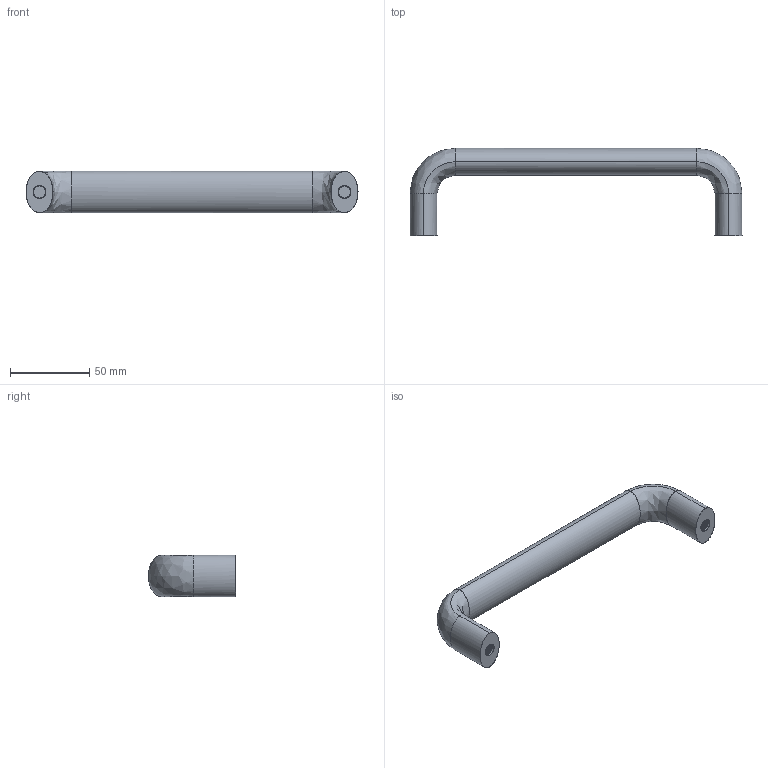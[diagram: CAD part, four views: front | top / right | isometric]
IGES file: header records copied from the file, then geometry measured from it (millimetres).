
Start section: SolidWorks IGES file using analytic representation for surfaces
Global section: file name: C:\Documents and Settings\Deathkiller\桌面\3D IGES\U型把手\MS-740\26\p=192.IGS; native system: SolidWorks 2006 by SolidWorks Corporation; preprocessor: SolidWorks 2006 by SolidWorks Corporation; author: Deathkiller; date: 080624.172638; units: millimetre
Bounding box: 209 x 54.99 x 26 mm (x, y, z)
Surface area: 19701 mm2 (no closed solid volume)
Topology: 0 solids, 0 shells, 70 faces, 1626 edges, 1626 vertices
Faces by surface type: revolution 48, bspline 22
